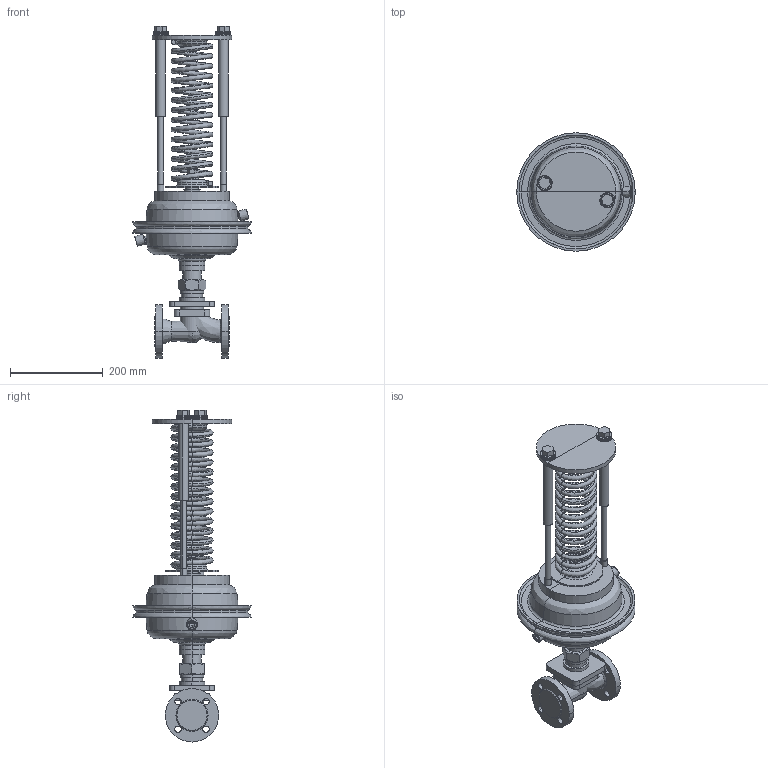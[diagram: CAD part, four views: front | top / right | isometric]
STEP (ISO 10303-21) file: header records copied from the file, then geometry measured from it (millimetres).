
FILE_DESCRIPTION(/* description */ (''),/* implementation_level */ '2;1');
FILE_NAME(/* name */ 'ETM_Регулятордавления_УРРД_НЗ_РД_DN25',/* time_stamp */ '2026-04-18T14:58:31+03:00',/* author */ (''),/* organization */ (''),/* preprocessor_version */ 'ST-DEVELOPER v20',/* originating_system */ '',/* authorisation */ '');
FILE_SCHEMA (('AP242_MANAGED_MODEL_BASED_3D_ENGINEERING_MIM_LF { 1 0 10303 442 1 1 4 }'));
Length unit declared in the file: millimetre
Products named in the file (13): TopLevelAssembly; Выдавливание; Переход; Выдавливание_
1; Переход_1; Переход_2; Переход_3; Выдавливание_
2; Объемная геометрия 
присоединена; Выдавливание_
3; Объемная геометрия 
присоединена_1; Выдавливание_
4; Пружина желтая
Assembly tree (12 placements, depth 2):
  TopLevelAssembly
    Выдавливание
    Переход
    Выдавливание_
1
    Переход_1
    Переход_2
    Переход_3
    Выдавливание_
2
    Объемная геометрия 
присоединена
    Выдавливание_
3
    Объемная геометрия 
присоединена_1
    Выдавливание_
4
    Пружина желтая
Bounding box: 255.07 x 255.07 x 715.11 mm (x, y, z)
Volume: 5853955.5 mm3; surface area: 667974.6 mm2
Topology: 33 solids, 33 shells, 518 faces, 1065 edges, 551 vertices
Faces by surface type: plane 191, bspline 191, cylinder 126, cone 10
Entity records: 16903 total; most frequent: CARTESIAN_POINT 5881, DIRECTION 2326, ORIENTED_EDGE 2038, EDGE_CURVE 1019, AXIS2_PLACEMENT_3D 979, CIRCLE 627, VERTEX_POINT 551, EDGE_LOOP 538
